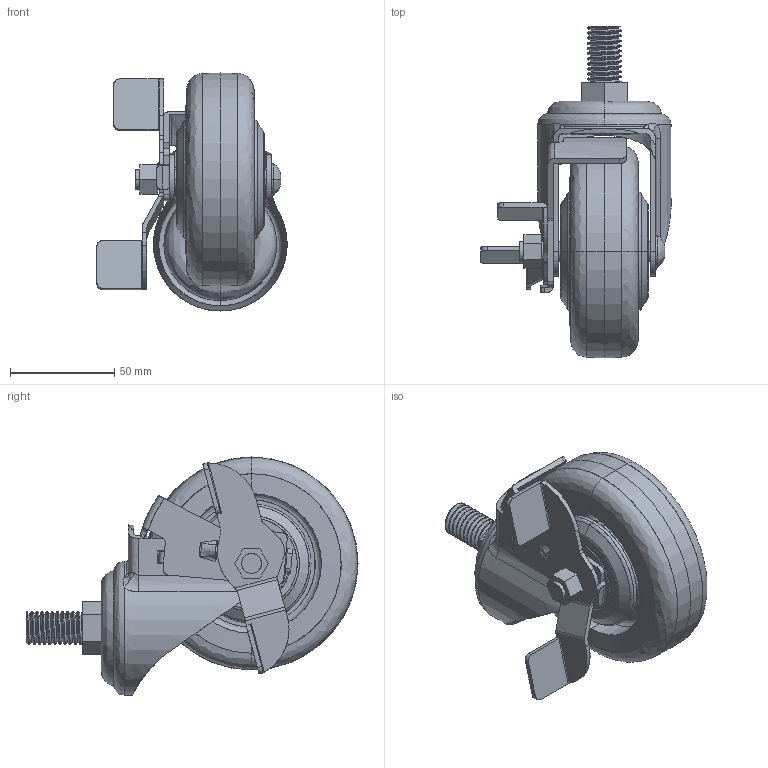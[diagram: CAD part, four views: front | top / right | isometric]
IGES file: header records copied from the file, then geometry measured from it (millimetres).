
Start section: SolidWorks IGES file using analytic representation for surfaces
Global section: file name: C:\Users\KHJ\Desktop\3D\LM5040-PUB(BRAKE).IGS; native system: SolidWorks 2012; preprocessor: SolidWorks 2012; author: KHJ; date: 121128.000808; units: millimetre
Bounding box: 91.11 x 159 x 114 mm (x, y, z)
Surface area: 98097.5 mm2 (no closed solid volume)
Topology: 0 solids, 0 shells, 426 faces, 6980 edges, 6972 vertices
Faces by surface type: bspline 289, revolution 137
